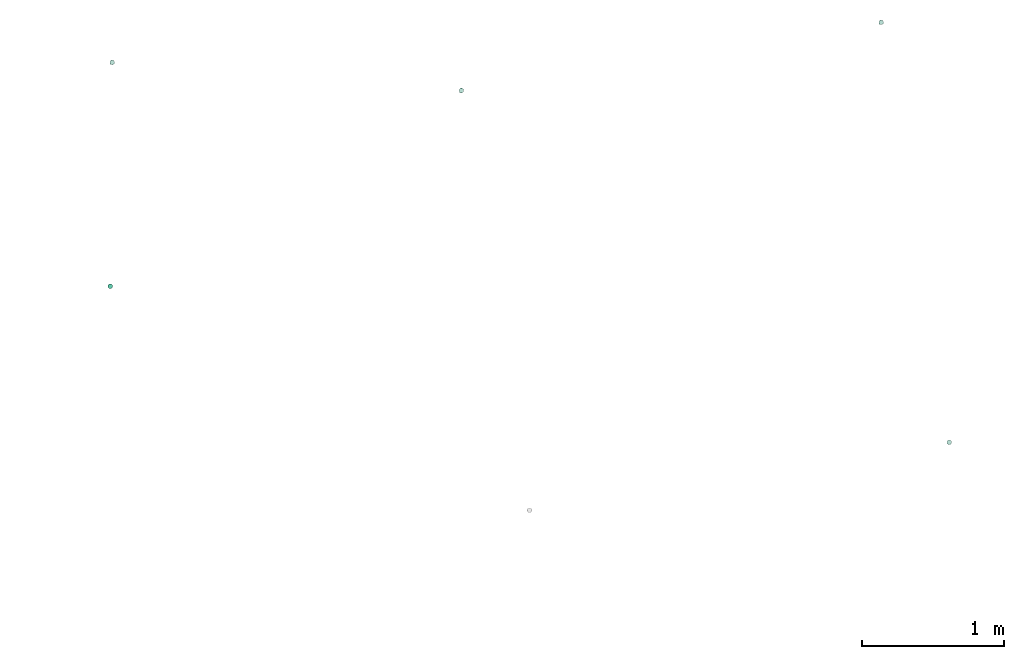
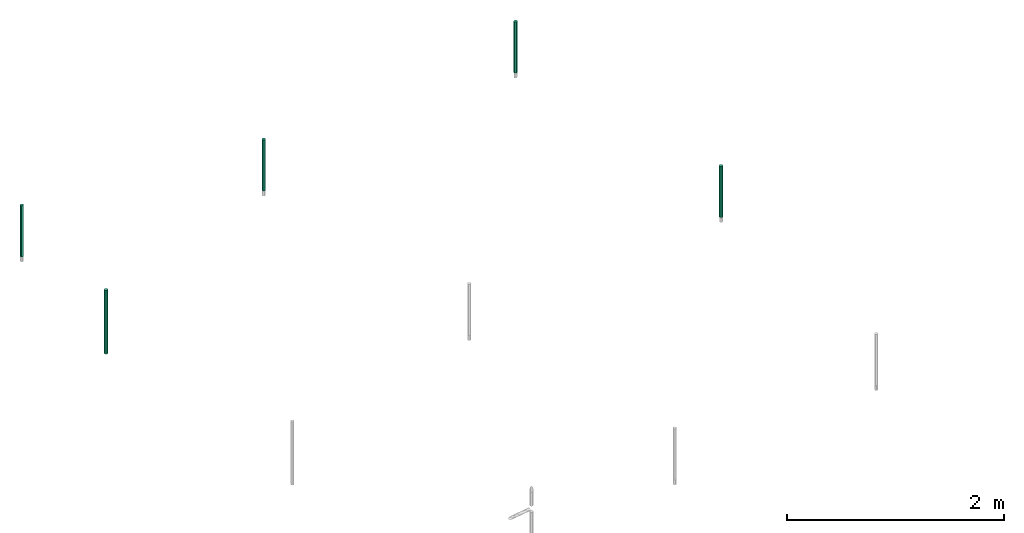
# One storey, part 4 of 8: 5 flow segments.
"""IFC2X3 building model written with IfcOpenShell, lengths in millimetres."""

from ifc_helpers import new_model, entity, si_unit, converted_unit, derived_unit, direction, frame, origin, origin_with_axes, origin_2d_with_axis, place, context, subcontext, project, spatial, circle, extrude, type_object, element, save


model = new_model("IFC2X3")

# Units and contexts
plan_context = context("Plan", 3, precision=1e-05, world=origin_with_axes())
model_context = context("Model", 3, precision=0.01, world=origin(), true_north=direction((6.12323399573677e-17, 1.0)))
body_context = subcontext(model_context, "Body", "Model", "MODEL_VIEW")
ifc_project = project(units=[converted_unit("PLANEANGLEUNIT", "DEGREE", entity("IfcPositiveLengthMeasure", 0.0174532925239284), si_unit("PLANEANGLEUNIT", "RADIAN"), dimensions=[0, 0, 0, 0, 0, 0, 0]), si_unit("AREAUNIT", "SQUARE_METRE"), si_unit("LENGTHUNIT", "METRE", prefix="MILLI"), si_unit("MASSUNIT", "GRAM", prefix="KILO"), si_unit("POWERUNIT", "WATT"), si_unit("PRESSUREUNIT", "PASCAL", prefix="KILO"), si_unit("FORCEUNIT", "NEWTON", prefix="KILO"), si_unit("ELECTRICVOLTAGEUNIT", "VOLT"), si_unit("ELECTRICCURRENTUNIT", "AMPERE"), si_unit("THERMODYNAMICTEMPERATUREUNIT", "DEGREE_CELSIUS"), si_unit("TIMEUNIT", "SECOND"), si_unit("VOLUMEUNIT", "CUBIC_METRE"), derived_unit("LINEARVELOCITYUNIT", [(si_unit("LENGTHUNIT", "METRE"), 1), (si_unit("TIMEUNIT", "SECOND"), -1)]), derived_unit("VOLUMETRICFLOWRATEUNIT", [(si_unit("VOLUMEUNIT", "CUBIC_METRE"), 1), (si_unit("TIMEUNIT", "SECOND"), -1)]), derived_unit("THERMALTRANSMITTANCEUNIT", [(si_unit("POWERUNIT", "WATT"), 1), (si_unit("THERMODYNAMICTEMPERATUREUNIT", "KELVIN"), -1), (si_unit("AREAUNIT", "SQUARE_METRE"), -1)]), derived_unit("SOUNDPRESSUREUNIT", [(si_unit("PRESSUREUNIT", "PASCAL"), 1)])], contexts=[model_context, plan_context])

# Site, building, storey
site_placement = place(None, frame((-0.00071070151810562, 0.00438415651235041, 0.0), z_axis=(0.0, 0.0, 1.0), x_axis=(-0.160236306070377, 0.987078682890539, 0.0)))
site = spatial("IfcSite", under=ifc_project, at=site_placement, Name="Default", CompositionType="ELEMENT")
building_placement = place(site_placement, origin_with_axes())
building = spatial("IfcBuilding", under=site, at=building_placement, CompositionType="ELEMENT")
storey_placement = place(building_placement, frame((0.0, 0.0, 58999.9999999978), z_axis=(0.0, 0.0, 1.0), x_axis=(1.0, 0.0, 0.0)))
storey = spatial("IfcBuildingStorey", under=building, at=storey_placement, Name="Nivå F", CompositionType="ELEMENT", Elevation=58999.9999999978)

# Flow segments
pipe_segment_type = type_object("IfcPipeSegmentType", Name="Pipe Types:Stålrør normaltykke", PredefinedType="NOTDEFINED")
flow_segment_1_placement = place(storey_placement, origin_with_axes())
element("IfcFlowSegment", 1, at=flow_segment_1_placement, inside=storey, type_object=pipe_segment_type, Name="Pipe Types:Stålrør normaltykke", ObjectType="Pipe Types:Stålrør normaltykke", context=body_context, shape_type="SweptSolid", body=[
    extrude(circle(Radius=16.8500004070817, at=origin_2d_with_axis()), frame((785332.425186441, -502827.347453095, 2568.048)), (0.0, 0.0, 1.0), 719.601999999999),
])
flow_segment_2_placement = place(storey_placement, origin_with_axes())
element("IfcFlowSegment", 2, at=flow_segment_2_placement, inside=storey, type_object=pipe_segment_type, Name="Pipe Types:Stålrør normaltykke", ObjectType="Pipe Types:Stålrør normaltykke", context=body_context, shape_type="SweptSolid", body=[
    extrude(circle(Radius=16.8500004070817, at=origin_2d_with_axis()), frame((786297.619644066, -505493.480498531, 2703.04800000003)), (0.0, 0.0, 1.0), 576.151999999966),
])
flow_segment_3_placement = place(storey_placement, origin_with_axes())
element("IfcFlowSegment", 3, at=flow_segment_3_placement, inside=storey, type_object=pipe_segment_type, Name="Pipe Types:Stålrør normaltykke", ObjectType="Pipe Types:Stålrør normaltykke", context=body_context, shape_type="SweptSolid", body=[
    extrude(circle(Radius=16.8500004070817, at=origin_2d_with_axis()), frame((786297.619644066, -508493.480498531, 2703.04800000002)), (0.0, 0.0, 1.0), 576.151999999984),
])
flow_segment_4_placement = place(storey_placement, origin_with_axes())
element("IfcFlowSegment", 4, at=flow_segment_4_placement, inside=storey, type_object=pipe_segment_type, Name="Pipe Types:Stålrør normaltykke", ObjectType="Pipe Types:Stålrør normaltykke", context=body_context, shape_type="SweptSolid", body=[
    extrude(circle(Radius=16.8500004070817, at=origin_2d_with_axis()), frame((783297.619644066, -508493.480498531, 2703.04799999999)), (0.0, 0.0, 1.0), 576.15200000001),
])
flow_segment_5_placement = place(storey_placement, origin_with_axes())
element("IfcFlowSegment", 5, at=flow_segment_5_placement, inside=storey, type_object=pipe_segment_type, Name="Pipe Types:Stålrør normaltykke", ObjectType="Pipe Types:Stålrør normaltykke", context=body_context, shape_type="SweptSolid", body=[
    extrude(circle(Radius=16.8500004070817, at=origin_2d_with_axis()), frame((786888.155021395, -503093.480498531, 2703.048)), (0.0, 0.0, 1.0), 576.152000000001),
])

save(model, "model.ifc")
